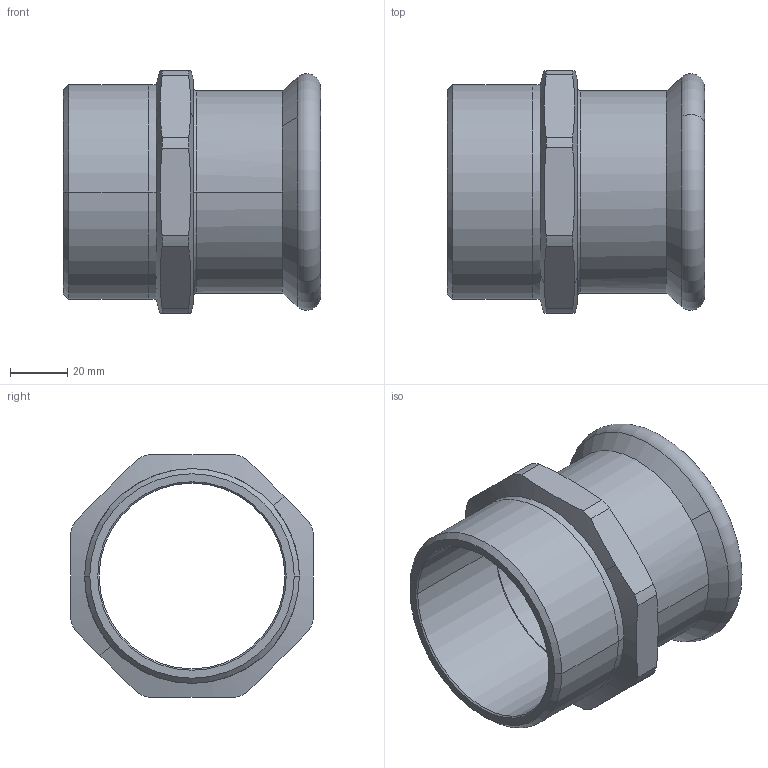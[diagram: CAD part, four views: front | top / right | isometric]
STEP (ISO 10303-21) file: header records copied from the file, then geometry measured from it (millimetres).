
FILE_DESCRIPTION(('CoCreate Modeling STEP Export'),'2;1');
FILE_NAME('C1405 67xR2 1-2.stp','2014-10-23T14:35:35',(''),(''),'CoCreate Modeling STEP processor for AP214 (Solid Model)','CoCreate Modeling 17.00A 17-Jun-2010 (C) Parametric Technology GmbH','');
FILE_SCHEMA(('AUTOMOTIVE_DESIGN { 1 0 10303 214 1 1 1 1 }'));
Length unit declared in the file: millimetre
Products named in the file (2): Overgang_67xR5-2
Assembly tree (1 placements, depth 2):
  Overgang_67xR5-2
    Overgang_67xR5-2
Bounding box: 90 x 85 x 85 mm (x, y, z)
Volume: 94799.2 mm3; surface area: 45550.8 mm2
Topology: 1 solids, 1 shells, 53 faces, 142 edges, 92 vertices
Faces by surface type: cylinder 20, cone 16, plane 11, torus 6
Entity records: 2316 total; most frequent: CARTESIAN_POINT 1058, ORIENTED_EDGE 284, DIRECTION 216, EDGE_CURVE 142, VERTEX_POINT 92, AXIS2_PLACEMENT_3D 86, EDGE_LOOP 56, FACE_OUTER_BOUND 53
